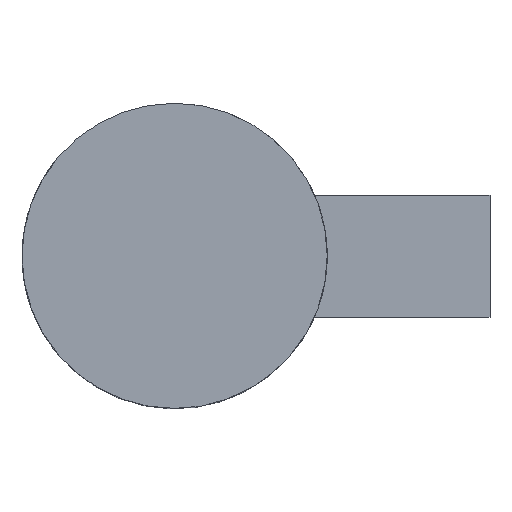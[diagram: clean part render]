
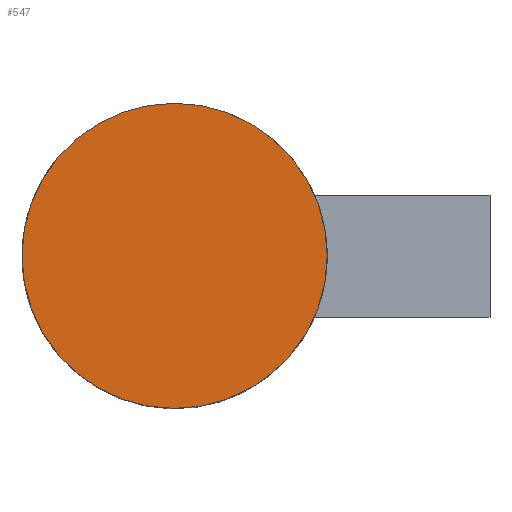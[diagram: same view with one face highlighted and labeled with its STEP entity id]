
A CAD part, top view. The second image highlights one B-rep face of the part: STEP entity #547.
In plain terms, the highlighted planar face has unit normal (0, 0, 1).
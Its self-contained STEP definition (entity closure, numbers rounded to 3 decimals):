
#4 = CARTESIAN_POINT ( 'NONE',  ( 0., 0., 6. ) ) ;
#10 = VERTEX_POINT ( 'NONE', #389 ) ;
#32 = DIRECTION ( 'NONE',  ( 1., 0., 0. ) ) ;
#33 = ORIENTED_EDGE ( 'NONE', *, *, #589, .T. ) ;
#88 = EDGE_LOOP ( 'NONE', ( #286, #33 ) ) ;
#90 = DIRECTION ( 'NONE',  ( 0., 0., 1. ) ) ;
#98 = CARTESIAN_POINT ( 'NONE',  ( 7.5, 0., 6. ) ) ;
#156 = CARTESIAN_POINT ( 'NONE',  ( 0., 0., 6. ) ) ;
#179 = VERTEX_POINT ( 'NONE', #98 ) ;
#188 = DIRECTION ( 'NONE',  ( 1., 0., 0. ) ) ;
#214 = AXIS2_PLACEMENT_3D ( 'NONE', #156, #90, #32 ) ;
#215 = PLANE ( 'NONE',  #214 ) ;
#225 = AXIS2_PLACEMENT_3D ( 'NONE', #4, #551, #493 ) ;
#243 = FACE_OUTER_BOUND ( 'NONE', #88, .T. ) ;
#245 = EDGE_CURVE ( 'NONE', #10, #179, #480, .T. ) ;
#257 = DIRECTION ( 'NONE',  ( 0., 0., 1. ) ) ;
#273 = CIRCLE ( 'NONE', #225, 7.5 ) ;
#286 = ORIENTED_EDGE ( 'NONE', *, *, #245, .T. ) ;
#298 = AXIS2_PLACEMENT_3D ( 'NONE', #510, #257, #188 ) ;
#389 = CARTESIAN_POINT ( 'NONE',  ( -7.5, 0., 6. ) ) ;
#480 = CIRCLE ( 'NONE', #298, 7.5 ) ;
#493 = DIRECTION ( 'NONE',  ( 1., 0., 0. ) ) ;
#510 = CARTESIAN_POINT ( 'NONE',  ( 0., 0., 6. ) ) ;
#547 = ADVANCED_FACE ( 'NONE', ( #243 ), #215, .T. ) ;
#551 = DIRECTION ( 'NONE',  ( 0., 0., 1. ) ) ;
#589 = EDGE_CURVE ( 'NONE', #179, #10, #273, .T. ) ;
